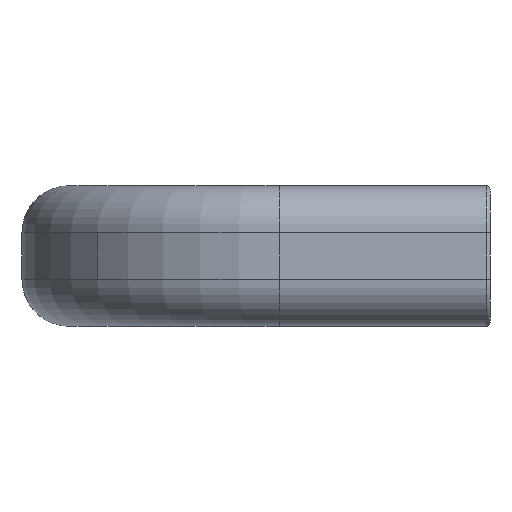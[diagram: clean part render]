
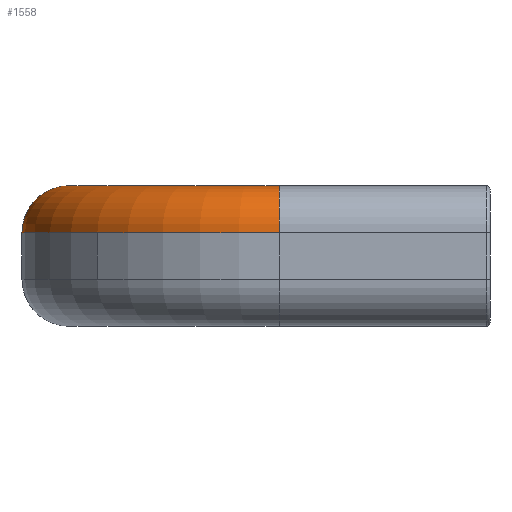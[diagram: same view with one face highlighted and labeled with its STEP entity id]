
A CAD part, left-side view. The second image highlights one B-rep face of the part: STEP entity #1558.
In plain terms, the highlighted toroidal (fillet/blend) face has major radius 18 mm and minor radius 4 mm.
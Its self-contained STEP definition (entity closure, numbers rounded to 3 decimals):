
#364=CARTESIAN_POINT('',(-50.0,18.0,6.));
#365=VERTEX_POINT('',#364);
#381=CARTESIAN_POINT('',(-46.,18.0,2.));
#382=VERTEX_POINT('',#381);
#389=CARTESIAN_POINT('',(-50.0,18.0,2.));
#390=DIRECTION('',(0.0,1.0,0.0));
#391=DIRECTION('',(0.0,0.0,1.0));
#392=AXIS2_PLACEMENT_3D('',#389,#390,#391);
#393=CIRCLE('',#392,4.);
#394=EDGE_CURVE('',#365,#382,#393,.T.);
#406=CARTESIAN_POINT('',(-47.556,33.556,2.));
#407=VERTEX_POINT('',#406);
#421=CARTESIAN_POINT('',(-54.0,18.0,2.));
#422=VERTEX_POINT('',#421);
#429=CARTESIAN_POINT('',(-32.0,18.0,2.));
#430=DIRECTION('',(0.0,0.0,-1.0));
#431=DIRECTION('',(-1.0,0.0,0.0));
#432=AXIS2_PLACEMENT_3D('',#429,#430,#431);
#433=CIRCLE('',#432,22.0);
#434=EDGE_CURVE('',#422,#407,#433,.T.);
#444=CARTESIAN_POINT('',(-41.899,27.899,2.));
#445=VERTEX_POINT('',#444);
#454=CARTESIAN_POINT('',(-32.0,18.0,2.));
#455=DIRECTION('',(0.0,0.0,-1.0));
#456=DIRECTION('',(-1.0,0.0,0.0));
#457=AXIS2_PLACEMENT_3D('',#454,#455,#456);
#458=CIRCLE('',#457,14.);
#459=EDGE_CURVE('',#382,#445,#458,.T.);
#528=CARTESIAN_POINT('',(-32.,36.0,6.));
#529=VERTEX_POINT('',#528);
#545=CARTESIAN_POINT('',(-32.,40.,2.));
#546=VERTEX_POINT('',#545);
#553=CARTESIAN_POINT('',(-32.,36.0,2.));
#554=DIRECTION('',(1.0,0.0,0.0));
#555=DIRECTION('',(0.0,0.0,1.0));
#556=AXIS2_PLACEMENT_3D('',#553,#554,#555);
#557=CIRCLE('',#556,4.);
#558=EDGE_CURVE('',#546,#529,#557,.T.);
#1428=CARTESIAN_POINT('',(-32.,32.0,2.));
#1429=VERTEX_POINT('',#1428);
#1453=CARTESIAN_POINT('',(-32.,36.0,2.));
#1454=DIRECTION('',(1.0,0.0,0.0));
#1455=DIRECTION('',(0.0,0.0,1.0));
#1456=AXIS2_PLACEMENT_3D('',#1453,#1454,#1455);
#1457=CIRCLE('',#1456,4.);
#1458=EDGE_CURVE('',#529,#1429,#1457,.T.);
#1521=CARTESIAN_POINT('',(-32.0,18.0,2.));
#1522=DIRECTION('',(0.0,0.0,-1.0));
#1523=DIRECTION('',(-1.0,0.0,0.0));
#1524=AXIS2_PLACEMENT_3D('',#1521,#1522,#1523);
#1525=CIRCLE('',#1524,14.);
#1526=EDGE_CURVE('',#445,#1429,#1525,.T.);
#1531=CARTESIAN_POINT('',(-32.,18.0,2.));
#1532=DIRECTION('',(0.0,0.0,-1.0));
#1533=DIRECTION('',(-1.0,0.0,0.0));
#1534=AXIS2_PLACEMENT_3D('',#1531,#1532,#1533);
#1535=TOROIDAL_SURFACE('',#1534,18.,4.);
#1536=CARTESIAN_POINT('',(-50.0,18.0,2.));
#1537=DIRECTION('',(0.0,1.0,0.0));
#1538=DIRECTION('',(0.0,0.0,1.0));
#1539=AXIS2_PLACEMENT_3D('',#1536,#1537,#1538);
#1540=CIRCLE('',#1539,4.);
#1541=EDGE_CURVE('',#422,#365,#1540,.T.);
#1542=ORIENTED_EDGE('',*,*,#1541,.T.);
#1543=ORIENTED_EDGE('',*,*,#394,.T.);
#1544=ORIENTED_EDGE('',*,*,#459,.T.);
#1545=ORIENTED_EDGE('',*,*,#1526,.T.);
#1546=ORIENTED_EDGE('',*,*,#1458,.F.);
#1547=ORIENTED_EDGE('',*,*,#558,.F.);
#1548=CARTESIAN_POINT('',(-32.0,18.0,2.));
#1549=DIRECTION('',(0.0,0.0,-1.0));
#1550=DIRECTION('',(-1.0,0.0,0.0));
#1551=AXIS2_PLACEMENT_3D('',#1548,#1549,#1550);
#1552=CIRCLE('',#1551,22.0);
#1553=EDGE_CURVE('',#407,#546,#1552,.T.);
#1554=ORIENTED_EDGE('',*,*,#1553,.F.);
#1555=ORIENTED_EDGE('',*,*,#434,.F.);
#1556=EDGE_LOOP('',(#1542,#1543,#1544,#1545,#1546,#1547,#1554,#1555));
#1557=FACE_OUTER_BOUND('',#1556,.T.);
#1558=ADVANCED_FACE('',(#1557),#1535,.T.);
